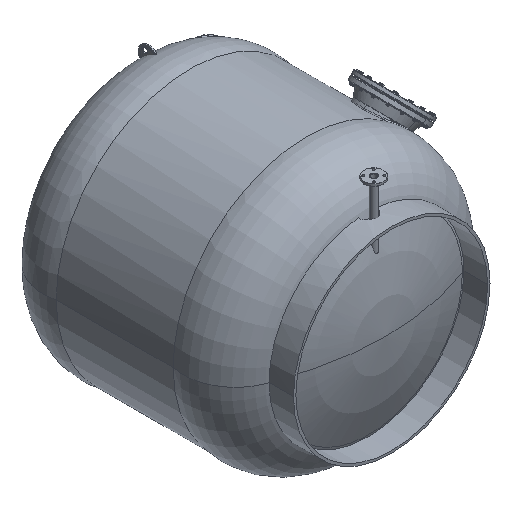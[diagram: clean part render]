
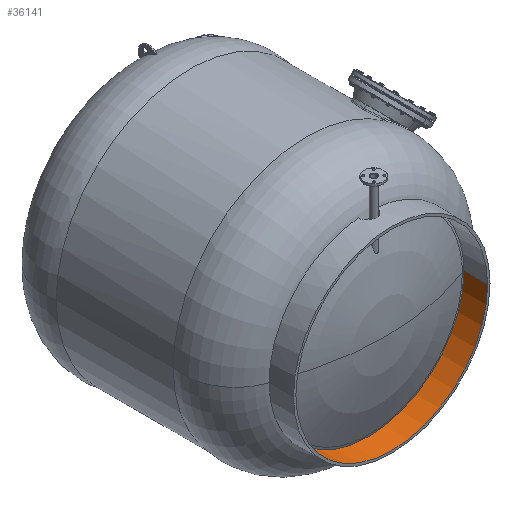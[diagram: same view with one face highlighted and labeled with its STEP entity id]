
A CAD part, isometric view. The second image highlights one B-rep face of the part: STEP entity #36141.
In plain terms, the highlighted cylindrical face has radius 800 mm (diameter 1600 mm), a partial arc.
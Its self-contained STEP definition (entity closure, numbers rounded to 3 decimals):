
#5755 = ORIENTED_EDGE ( 'NONE', *, *, #46940, .T. ) ;
#9763 = CARTESIAN_POINT ( 'NONE',  ( 50., 0., -850. ) ) ;
#14355 = DIRECTION ( 'NONE',  ( 1., 0., 0. ) ) ;
#16709 = CARTESIAN_POINT ( 'NONE',  ( 1650., 0., -850. ) ) ;
#18007 = AXIS2_PLACEMENT_3D ( 'NONE', #72877, #89091, #53754 ) ;
#22719 = DIRECTION ( 'NONE',  ( 0., -1., 0. ) ) ;
#23753 = VERTEX_POINT ( 'NONE', #16709 ) ;
#24468 = DIRECTION ( 'NONE',  ( 0., 1., 0. ) ) ;
#31321 = VERTEX_POINT ( 'NONE', #9763 ) ;
#32233 = ORIENTED_EDGE ( 'NONE', *, *, #35166, .F. ) ;
#33987 = AXIS2_PLACEMENT_3D ( 'NONE', #109259, #75733, #14355 ) ;
#34827 = CARTESIAN_POINT ( 'NONE',  ( 850., 0., -850. ) ) ;
#34953 = VECTOR ( 'NONE', #22719, 1000. ) ;
#34968 = ORIENTED_EDGE ( 'NONE', *, *, #62105, .F. ) ;
#35166 = EDGE_CURVE ( 'NONE', #23753, #31321, #93381, .T. ) ;
#35906 = VERTEX_POINT ( 'NONE', #90486 ) ;
#36141 = ADVANCED_FACE ( 'NONE', ( #71754 ), #61917, .F. ) ;
#40387 = CARTESIAN_POINT ( 'NONE',  ( 1650., 197., -850. ) ) ;
#46940 = EDGE_CURVE ( 'NONE', #48366, #35906, #98625, .T. ) ;
#47906 = ORIENTED_EDGE ( 'NONE', *, *, #77407, .T. ) ;
#48366 = VERTEX_POINT ( 'NONE', #111469 ) ;
#49266 = CARTESIAN_POINT ( 'NONE',  ( 50., 197., -850. ) ) ;
#49612 = LINE ( 'NONE', #40387, #64631 ) ;
#53754 = DIRECTION ( 'NONE',  ( 1., 0., 0. ) ) ;
#58525 = LINE ( 'NONE', #49266, #34953 ) ;
#61917 = CYLINDRICAL_SURFACE ( 'NONE', #18007, 800. ) ;
#62105 = EDGE_CURVE ( 'NONE', #48366, #23753, #49612, .T. ) ;
#64631 = VECTOR ( 'NONE', #65307, 1000. ) ;
#65307 = DIRECTION ( 'NONE',  ( 0., -1., 0. ) ) ;
#71754 = FACE_OUTER_BOUND ( 'NONE', #106627, .T. ) ;
#72877 = CARTESIAN_POINT ( 'NONE',  ( 850., 0., -850. ) ) ;
#75733 = DIRECTION ( 'NONE',  ( 0., 1., 0. ) ) ;
#77407 = EDGE_CURVE ( 'NONE', #35906, #31321, #58525, .T. ) ;
#78277 = DIRECTION ( 'NONE',  ( 1., 0., 0. ) ) ;
#80559 = AXIS2_PLACEMENT_3D ( 'NONE', #34827, #24468, #78277 ) ;
#89091 = DIRECTION ( 'NONE',  ( 0., -1., 0. ) ) ;
#90486 = CARTESIAN_POINT ( 'NONE',  ( 50., 197., -850. ) ) ;
#93381 = CIRCLE ( 'NONE', #80559, 800. ) ;
#98625 = CIRCLE ( 'NONE', #33987, 800. ) ;
#106627 = EDGE_LOOP ( 'NONE', ( #5755, #47906, #32233, #34968 ) ) ;
#109259 = CARTESIAN_POINT ( 'NONE',  ( 850., 197., -850. ) ) ;
#111469 = CARTESIAN_POINT ( 'NONE',  ( 1650., 197., -850. ) ) ;
